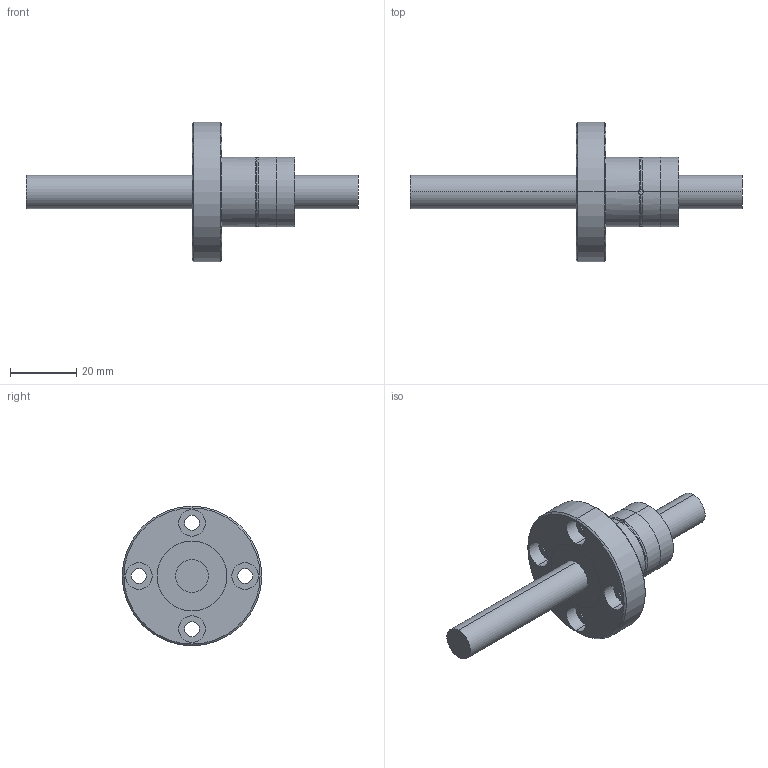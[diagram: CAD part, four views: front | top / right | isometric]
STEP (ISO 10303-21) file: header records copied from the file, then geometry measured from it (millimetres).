
FILE_DESCRIPTION (( 'STEP AP203' ), '1' );
FILE_NAME ('KLF010T2.STEP', '2023-08-17T07:22:06', ( '' ), ( '' ), 'SwSTEP 2.0', 'SolidWorks 2022', '' );
FILE_SCHEMA (( 'CONFIG_CONTROL_DESIGN' ));
Length unit declared in the file: millimetre
Products named in the file (5): 主体^KLF010T2; 塑胶1^KLF010T2; 塑胶2^KLF010T2; 零件6^KLF010T2; KLF010T2
Assembly tree (4 placements, depth 2):
  KLF010T2
    主体^KLF010T2
    塑胶1^KLF010T2
    塑胶2^KLF010T2
    零件6^KLF010T2
Bounding box: 100 x 42 x 42 mm (x, y, z)
Volume: 24324.7 mm3; surface area: 11852.4 mm2
Topology: 4 solids, 4 shells, 62 faces, 144 edges, 92 vertices
Faces by surface type: cylinder 40, plane 14, torus 4, cone 4
Entity records: 2445 total; most frequent: CARTESIAN_POINT 441, DIRECTION 340, ORIENTED_EDGE 288, AXIS2_PLACEMENT_3D 147, EDGE_CURVE 144, VERTEX_POINT 92, EDGE_LOOP 82, CIRCLE 78
